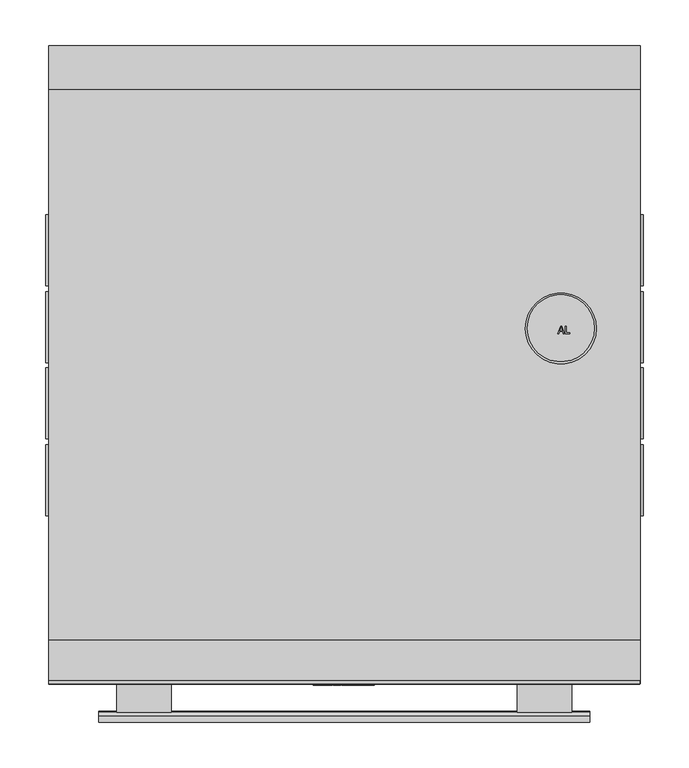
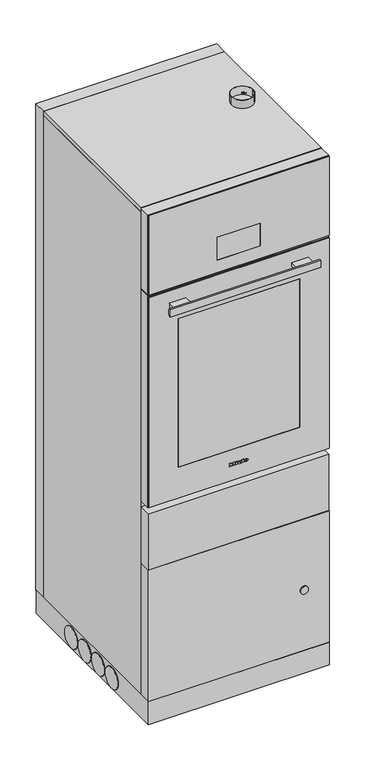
"""IFC4 building model written with IfcOpenShell, lengths in millimetres: proxy geometry, 12278800_SE1_PLW7111 : 62711138_SE1_12278800_PLW7111."""

from ifc_helpers import new_model, si_unit, point, frame, frame_2d, origin, place, context, project, spatial, polyline, circle_curve, ellipse_curve, trimmed, segment, composite_curve, outline, extrude, faceted_brep, source, transform, mapped, element, save
from ifc_brep_helpers import plane_surface, cylinder_surface, revolved_surface, extruded_surface, advanced_brep


def specialty_equipment_a3ce516c(model_context):
    return source(origin(), model_context, "Body", "SolidModel", [
        extrude(outline(polyline([(894.3169701, -34.243), (894.3169701, -32.912), (886.9579701, -32.912), (886.9579701, -34.243), (885.1099701, -34.243), (885.1099701, -29.403), (886.9579701, -29.403), (886.9579701, -30.723), (891.6180948, -30.723), (885.1099701, -25.806), (891.8001924, -20.867), (886.9579701, -20.867), (886.9579701, -22.22), (885.1099701, -22.22), (885.1099701, -13.442), (886.9579701, -13.442), (886.9579701, -14.839), (894.3169701, -14.839), (894.3169701, -13.442), (896.1099701, -13.442), (896.1099701, -20.141), (891.9849701, -23.353), (896.1099701, -26.576), (896.1099701, -34.243), (894.3169701, -34.243)])), frame((0.0, -1.0, 0.0), z_axis=(0.0, 1.0, 0.0), x_axis=(0.0, 0.0, 1.0)), (0.0, 0.0, 1.0), 1.0),
        extrude(outline(polyline([(894.3169701, 10.395), (894.3169701, 11.715), (886.9579701, 11.715), (886.9579701, 10.395), (885.1099701, 10.395), (885.1099701, 19.316), (886.9579701, 19.316), (886.9579701, 17.963), (896.1099701, 17.963), (896.1099701, 10.395), (894.3169701, 10.395)])), frame((0.0, -1.0, 0.0), z_axis=(0.0, 1.0, 0.0), x_axis=(0.0, 0.0, 1.0)), (0.0, 0.0, 1.0), 1.0),
        extrude(outline(polyline([(895.4609701, -9.603), (893.6789701, -8.767), (895.4169701, -5.038), (897.1989701, -5.863), (895.4609701, -9.603)])), frame((0.0, -1.0, 0.0), z_axis=(0.0, 1.0, 0.0), x_axis=(0.0, 0.0, 1.0)), (0.0, 0.0, 1.0), 1.0),
        extrude(outline(polyline([(893.4369701, -12.32), (891.4679701, -12.32), (891.4679701, -11.011), (886.9579701, -11.011), (886.9579701, -12.32), (885.1099701, -12.32), (885.1099701, -3.641), (886.9579701, -3.641), (886.9579701, -4.917), (893.4369701, -4.917), (893.4369701, -12.32)])), frame((0.0, -1.0, 0.0), z_axis=(0.0, 1.0, 0.0), x_axis=(0.0, 0.0, 1.0)), (0.0, 0.0, 1.0), 1.0),
        advanced_brep(
        [(2.42, -1.0, 887.7169701), (2.42, -1.0, 888.8279701), (9.779, -1.0, 888.8279701), (-3.025, -1.0, 888.8279701), (0.0, -1.0, 885.1099701), (9.592, -1.0, 887.7169701), (6.27, -1.0, 887.7169701), (3.652, -1.0, 886.4849701), (2.42, -1.0, 890.2359701), (2.42, -1.0, 891.4349701), (4.301, -1.0, 891.4349701), (4.301, -1.0, 890.2359701), (2.42, 0.0, 887.7169701), (3.652, 0.0, 886.4849701), (6.27, 0.0, 887.7169701), (9.592, 0.0, 887.7169701), (0.0, 0.0, 885.1099701), (-3.025, 0.0, 888.8279701), (9.779, 0.0, 888.8279701), (2.42, 0.0, 888.8279701), (2.42, 0.0, 890.2359701), (4.301, 0.0, 890.2359701), (4.301, 0.0, 891.4349701), (2.42, 0.0, 891.4349701)],
        [
            (0, 1),
            (1, 2),
            (2, 3, ellipse_curve(frame((3.377, -1.0, 888.8279701), z_axis=(0.0, -1.0, 0.0), x_axis=(-1.0, 0.0, 0.0)), 6.402, 5.291)),
            (3, 4, circle_curve(frame((1.23206, -1.0, 889.2019701), z_axis=(0.0, -1.0, 0.0), x_axis=(0.0, 0.0, -1.0)), 4.2734571)),
            (4, 5, circle_curve(frame((3.2488412, -1.0, 892.1059701), z_axis=(0.0, -1.0, 0.0), x_axis=(0.0, 0.0, -1.0)), 7.7135585)),
            (5, 6),
            (6, 7, circle_curve(frame((4.1897059, -1.0, 888.7399701), z_axis=(0.0, 1.0, 0.0), x_axis=(0.0, 0.0, -1.0)), 2.3182219)),
            (7, 0, circle_curve(frame((3.652, -1.0, 887.7169701), z_axis=(0.0, 1.0, 0.0), x_axis=(0.0, 0.0, -1.0)), 1.232)),
            (8, 9),
            (9, 10, circle_curve(frame((3.3605, -1.0, 891.4349701), z_axis=(0.0, 1.0, 0.0), x_axis=(0.0, 0.0, -1.0)), 0.9405)),
            (10, 11),
            (11, 8),
            (12, 13, circle_curve(frame((3.652, 0.0, 887.7169701), z_axis=(0.0, -1.0, 0.0), x_axis=(0.0, 0.0, -1.0)), 1.232)),
            (13, 14, circle_curve(frame((4.1897059, 0.0, 888.7399701), z_axis=(0.0, -1.0, 0.0), x_axis=(0.0, 0.0, -1.0)), 2.3182219)),
            (14, 15),
            (15, 16, circle_curve(frame((3.2488412, 0.0, 892.1059701), z_axis=(0.0, 1.0, 0.0), x_axis=(0.0, 0.0, -1.0)), 7.7135585)),
            (16, 17, circle_curve(frame((1.23206, 0.0, 889.2019701), z_axis=(0.0, 1.0, 0.0), x_axis=(0.0, 0.0, -1.0)), 4.2734571)),
            (17, 18, ellipse_curve(frame((3.377, 0.0, 888.8279701), z_axis=(0.0, 1.0, 0.0), x_axis=(-1.0, 0.0, 0.0)), 6.402, 5.291)),
            (18, 19),
            (19, 12),
            (20, 21),
            (21, 22),
            (22, 23, circle_curve(frame((3.3605, 0.0, 891.4349701), z_axis=(0.0, -1.0, 0.0), x_axis=(0.0, 0.0, -1.0)), 0.9405)),
            (23, 20),
            (0, 12),
            (19, 1),
            (18, 2),
            (5, 15),
            (14, 6),
            (17, 3),
            (13, 7),
            (16, 4),
            (8, 20),
            (23, 9),
            (22, 10),
            (21, 11),
        ],
        [
            plane_surface(frame((2.42, -1.0, 888.8279701), z_axis=(0.0, -1.0, 0.0), x_axis=(0.0, 0.0, 1.0))),
            plane_surface(frame((2.42, 0.0, 888.8279701), z_axis=(0.0, 1.0, 0.0), x_axis=(0.0, 0.0, -1.0))),
            plane_surface(frame((2.42, -1.0, 887.7169701), z_axis=(1.0, 0.0, 0.0), x_axis=(0.0, 1.0, 0.0))),
            plane_surface(frame((2.42, -1.0, 888.8279701), z_axis=(0.0, 0.0, -1.0), x_axis=(0.0, 1.0, 0.0))),
            plane_surface(frame((9.592, -1.0, 887.7169701), z_axis=(0.0, 0.0, 1.0), x_axis=(0.0, 1.0, 0.0))),
            extruded_surface(trimmed(ellipse_curve(frame((3.377, 1.0, 888.8279701), z_axis=(0.0, -1.0, 0.0), x_axis=(-1.0, 0.0, 0.0)), 6.402, 5.291), [point((9.779, 1.0, 888.8279701))], [point((-3.025, 1.0, 888.8279701))], True, "CARTESIAN"), (0.0, -1.0, 0.0), 1.0),
            revolved_surface(polyline([(4.1897059, 0.0, 886.4217482), (4.1897059, -1.0, 886.4217482)]), (4.1897059, 0.0, 888.7399701), (0.0, 1.0, 0.0)),
            revolved_surface(polyline([(3.652, 0.0, 886.4849701), (3.652, -1.0, 886.4849701)]), (3.652, 0.0, 887.7169701), (0.0, 1.0, 0.0)),
            cylinder_surface(frame((1.23206, 0.0, 889.2019701), z_axis=(0.0, -1.0, 0.0), x_axis=(0.0, 0.0, -1.0)), 4.2734571),
            cylinder_surface(frame((3.2488412, 0.0, 892.1059701), z_axis=(0.0, -1.0, 0.0), x_axis=(0.0, 0.0, -1.0)), 7.7135585),
            plane_surface(frame((2.42, -1.0, 890.2359701), z_axis=(1.0, 0.0, 0.0), x_axis=(0.0, 1.0, 0.0))),
            revolved_surface(polyline([(3.3605, 0.0, 890.4944701), (3.3605, -1.0, 890.4944701)]), (3.3605, 0.0, 891.4349701), (0.0, 1.0, 0.0)),
            plane_surface(frame((4.301, -1.0, 891.4349701), z_axis=(-1.0, 0.0, 0.0), x_axis=(0.0, 1.0, 0.0))),
            plane_surface(frame((4.301, -1.0, 890.2359701), z_axis=(0.0, 0.0, 1.0), x_axis=(0.0, 1.0, 0.0))),
        ],
        [
            (0, [[1, 2, 3, 4, 5, 6, 7, 8], [9, 10, 11, 12]]),
            (1, [[13, 14, 15, 16, 17, 18, 19, 20], [21, 22, 23, 24]]),
            (2, [[-1, 25, -20, 26]]),
            (3, [[-2, -26, -19, 27]]),
            (4, [[-6, 28, -15, 29]]),
            (5, [[-3, -27, -18, 30]]),
            (6, [[-7, -29, -14, 31]]),
            (7, [[-8, -31, -13, -25]]),
            (8, [[-4, -30, -17, 32]]),
            (9, [[-5, -32, -16, -28]]),
            (10, [[-9, 33, -24, 34]]),
            (11, [[-10, -34, -23, 35]]),
            (12, [[-11, -35, -22, 36]]),
            (13, [[-12, -36, -21, -33]]),
        ],
    ),
        advanced_brep(
        [(25.377, -1.0, 887.7169701), (25.377, -1.0, 888.8279701), (32.736, -1.0, 888.8279701), (19.932, -1.0, 888.8279701), (22.957, -1.0, 885.1099701), (32.549, -1.0, 887.7169701), (29.227, -1.0, 887.7169701), (26.609, -1.0, 886.4849701), (25.377, -1.0, 890.2359701), (25.377, -1.0, 891.4349701), (27.258, -1.0, 891.4349701), (27.258, -1.0, 890.2359701), (25.377, 0.0, 887.7169701), (26.609, 0.0, 886.4849701), (29.227, 0.0, 887.7169701), (32.549, 0.0, 887.7169701), (22.957, 0.0, 885.1099701), (19.932, 0.0, 888.8279701), (32.736, 0.0, 888.8279701), (25.377, 0.0, 888.8279701), (25.377, 0.0, 890.2359701), (27.258, 0.0, 890.2359701), (27.258, 0.0, 891.4349701), (25.377, 0.0, 891.4349701)],
        [
            (0, 1),
            (1, 2),
            (2, 3, ellipse_curve(frame((26.334, -1.0, 888.8279701), z_axis=(0.0, -1.0, 0.0), x_axis=(-1.0, 0.0, 0.0)), 6.402, 5.291)),
            (3, 4, circle_curve(frame((24.18906, -1.0, 889.2019701), z_axis=(0.0, -1.0, 0.0), x_axis=(0.0, 0.0, -1.0)), 4.2734571)),
            (4, 5, circle_curve(frame((26.2058412, -1.0, 892.1059701), z_axis=(0.0, -1.0, 0.0), x_axis=(0.0, 0.0, -1.0)), 7.7135585)),
            (5, 6),
            (6, 7, circle_curve(frame((27.1467059, -1.0, 888.7399701), z_axis=(0.0, 1.0, 0.0), x_axis=(0.0, 0.0, -1.0)), 2.3182219)),
            (7, 0, circle_curve(frame((26.609, -1.0, 887.7169701), z_axis=(0.0, 1.0, 0.0), x_axis=(0.0, 0.0, -1.0)), 1.232)),
            (8, 9),
            (9, 10, circle_curve(frame((26.3175, -1.0, 891.4349701), z_axis=(0.0, 1.0, 0.0), x_axis=(0.0, 0.0, -1.0)), 0.9405)),
            (10, 11),
            (11, 8),
            (12, 13, circle_curve(frame((26.609, 0.0, 887.7169701), z_axis=(0.0, -1.0, 0.0), x_axis=(0.0, 0.0, -1.0)), 1.232)),
            (13, 14, circle_curve(frame((27.1467059, 0.0, 888.7399701), z_axis=(0.0, -1.0, 0.0), x_axis=(0.0, 0.0, -1.0)), 2.3182219)),
            (14, 15),
            (15, 16, circle_curve(frame((26.2058412, 0.0, 892.1059701), z_axis=(0.0, 1.0, 0.0), x_axis=(0.0, 0.0, -1.0)), 7.7135585)),
            (16, 17, circle_curve(frame((24.18906, 0.0, 889.2019701), z_axis=(0.0, 1.0, 0.0), x_axis=(0.0, 0.0, -1.0)), 4.2734571)),
            (17, 18, ellipse_curve(frame((26.334, 0.0, 888.8279701), z_axis=(0.0, 1.0, 0.0), x_axis=(-1.0, 0.0, 0.0)), 6.402, 5.291)),
            (18, 19),
            (19, 12),
            (20, 21),
            (21, 22),
            (22, 23, circle_curve(frame((26.3175, 0.0, 891.4349701), z_axis=(0.0, -1.0, 0.0), x_axis=(0.0, 0.0, -1.0)), 0.9405)),
            (23, 20),
            (0, 12),
            (19, 1),
            (18, 2),
            (5, 15),
            (14, 6),
            (17, 3),
            (13, 7),
            (16, 4),
            (8, 20),
            (23, 9),
            (22, 10),
            (21, 11),
        ],
        [
            plane_surface(frame((25.377, -1.0, 888.8279701), z_axis=(0.0, -1.0, 0.0), x_axis=(0.0, 0.0, 1.0))),
            plane_surface(frame((25.377, 0.0, 888.8279701), z_axis=(0.0, 1.0, 0.0), x_axis=(0.0, 0.0, -1.0))),
            plane_surface(frame((25.377, -1.0, 887.7169701), z_axis=(1.0, 0.0, 0.0), x_axis=(0.0, 1.0, 0.0))),
            plane_surface(frame((25.377, -1.0, 888.8279701), z_axis=(0.0, 0.0, -1.0), x_axis=(0.0, 1.0, 0.0))),
            plane_surface(frame((32.549, -1.0, 887.7169701), z_axis=(0.0, 0.0, 1.0), x_axis=(0.0, 1.0, 0.0))),
            extruded_surface(trimmed(ellipse_curve(frame((26.334, 1.0, 888.8279701), z_axis=(0.0, -1.0, 0.0), x_axis=(-1.0, 0.0, 0.0)), 6.402, 5.291), [point((32.736, 1.0, 888.8279701))], [point((19.932, 1.0, 888.8279701))], True, "CARTESIAN"), (0.0, -1.0, 0.0), 1.0),
            revolved_surface(polyline([(27.1467059, 0.0, 886.4217482), (27.1467059, -1.0, 886.4217482)]), (27.1467059, 0.0, 888.7399701), (0.0, 1.0, 0.0)),
            revolved_surface(polyline([(26.609, 0.0, 886.4849701), (26.609, -1.0, 886.4849701)]), (26.609, 0.0, 887.7169701), (0.0, 1.0, 0.0)),
            cylinder_surface(frame((24.18906, 0.0, 889.2019701), z_axis=(0.0, -1.0, 0.0), x_axis=(0.0, 0.0, -1.0)), 4.2734571),
            cylinder_surface(frame((26.2058412, 0.0, 892.1059701), z_axis=(0.0, -1.0, 0.0), x_axis=(0.0, 0.0, -1.0)), 7.7135585),
            plane_surface(frame((25.377, -1.0, 890.2359701), z_axis=(1.0, 0.0, 0.0), x_axis=(0.0, 1.0, 0.0))),
            revolved_surface(polyline([(26.3175, 0.0, 890.4944701), (26.3175, -1.0, 890.4944701)]), (26.3175, 0.0, 891.4349701), (0.0, 1.0, 0.0)),
            plane_surface(frame((27.258, -1.0, 891.4349701), z_axis=(-1.0, 0.0, 0.0), x_axis=(0.0, 1.0, 0.0))),
            plane_surface(frame((27.258, -1.0, 890.2359701), z_axis=(0.0, 0.0, 1.0), x_axis=(0.0, 1.0, 0.0))),
        ],
        [
            (0, [[1, 2, 3, 4, 5, 6, 7, 8], [9, 10, 11, 12]]),
            (1, [[13, 14, 15, 16, 17, 18, 19, 20], [21, 22, 23, 24]]),
            (2, [[-1, 25, -20, 26]]),
            (3, [[-2, -26, -19, 27]]),
            (4, [[-6, 28, -15, 29]]),
            (5, [[-3, -27, -18, 30]]),
            (6, [[-7, -29, -14, 31]]),
            (7, [[-8, -31, -13, -25]]),
            (8, [[-4, -30, -17, 32]]),
            (9, [[-5, -32, -16, -28]]),
            (10, [[-9, 33, -24, 34]]),
            (11, [[-10, -34, -23, 35]]),
            (12, [[-11, -35, -22, 36]]),
            (13, [[-12, -36, -21, -33]]),
        ],
    ),
        extrude(outline(polyline([(325.0, 653.0273071), (325.0, 48.5762939), (-325.0, 48.5762939), (-325.0, 653.0273071), (325.0, 653.0273071)])), frame((0.0, 0.0, 1927.0), z_axis=(0.0, 0.0, 1.0), x_axis=(1.0, 0.0, 0.0)), (0.0, 0.0, 1.0), 14.0999756),
        extrude(outline(polyline([(325.0, 700.1), (325.0, 0.5808105), (-325.0, 0.5808105), (-325.0, 700.1), (325.0, 700.1)])), frame((0.0, 0.0, 4.7999878), z_axis=(0.0, 0.0, 1.0), x_axis=(1.0, 0.0, 0.0)), (0.0, 0.0, 1.0), 86.7000122),
        extrude(outline(polyline([(91.5, 325.0), (1927.0, 325.0), (1927.0, -325.0), (91.5, -325.0), (91.5, 325.0)]), holes=[polyline([(1511.0999756, -220.0), (1511.0999756, 220.0), (891.0999756, 220.0), (891.0999756, -220.0), (1511.0999756, -220.0)])]), frame((0.0, 48.5762939, 0.0), z_axis=(0.0, 1.0, 0.0), x_axis=(0.0, 0.0, 1.0)), (0.0, 0.0, 1.0), 604.4510132),
        advanced_brep(
        [(268.2500305, 80.857445, 4.7999878), (268.2500305, 110.2848797, 4.7999878), (235.7500305, 80.857445, 4.7999878), (235.7500305, 110.3447208, 4.7999878)],
        [
            (0, 1, circle_curve(frame((268.2500305, 95.5711623, 24.9514551), z_axis=(1.0, 0.0, 0.0), x_axis=(0.0, 1.0, 0.0)), 24.9514551)),
            (1, 0),
            (2, 3),
            (3, 2, circle_curve(frame((235.7500305, 95.5711623, 24.9514551), z_axis=(-1.0, 0.0, 0.0), x_axis=(0.0, 1.0, 0.0)), 24.9514551)),
            (0, 2),
            (3, 1),
        ],
        [
            plane_surface(frame((268.2500305, 120.5226174, 24.9514551), z_axis=(1.0, 0.0, 0.0), x_axis=(0.0, 0.0, 1.0))),
            plane_surface(frame((235.7500305, 120.5226174, 24.9514551), z_axis=(-1.0, 0.0, 0.0), x_axis=(0.0, 0.0, -1.0))),
            cylinder_surface(frame((235.7500305, 95.5711623, 24.9514551), z_axis=(1.0, 0.0, 0.0), x_axis=(0.0, 1.0, 0.0)), 24.9514551),
            plane_surface(frame((268.2500305, 110.3447208, 4.7999878), z_axis=(0.0, 0.0, 1.0), x_axis=(-1.0, 0.0, 0.0))),
        ],
        [
            (0, [[1, 2]]),
            (1, [[3, 4]]),
            (2, [[-1, 5, -4, 6]]),
            (3, [[-2, -6, -3, -5]]),
        ],
    ),
        advanced_brep(
        [(-268.25, 80.857445, 4.7999878), (-268.25, 110.3447208, 4.7999878), (-235.75, 80.857445, 4.7999878), (-235.75, 110.2848797, 4.7999878)],
        [
            (0, 1),
            (1, 0, circle_curve(frame((-268.25, 95.5711623, 24.9514551), z_axis=(-1.0, 0.0, 0.0), x_axis=(0.0, 1.0, 0.0)), 24.9514551)),
            (2, 3, circle_curve(frame((-235.75, 95.5711623, 24.9514551), z_axis=(1.0, 0.0, 0.0), x_axis=(0.0, 1.0, 0.0)), 24.9514551)),
            (3, 2),
            (1, 3),
            (2, 0),
        ],
        [
            plane_surface(frame((-268.25, 110.3447208, 4.7999878), z_axis=(-1.0, 0.0, 0.0), x_axis=(0.0, 1.0, 0.0))),
            plane_surface(frame((-235.75, 110.3447208, 4.7999878), z_axis=(1.0, 0.0, 0.0), x_axis=(0.0, -1.0, 0.0))),
            cylinder_surface(frame((-235.75, 95.5711623, 24.9514551), z_axis=(-1.0, 0.0, 0.0), x_axis=(0.0, 1.0, 0.0)), 24.9514551),
            plane_surface(frame((-268.25, 80.857445, 4.7999878), z_axis=(0.0, 0.0, 1.0), x_axis=(1.0, 0.0, 0.0))),
        ],
        [
            (0, [[1, 2]]),
            (1, [[3, 4]]),
            (2, [[-2, 5, -3, 6]]),
            (3, [[-1, -6, -4, -5]]),
        ],
    ),
        extrude(outline(composite_curve([segment(polyline([(645.4517693, 4.7999878), (670.1938484, 4.7999878)]), True, "CONTINUOUS"), segment(trimmed(circle_curve(frame_2d((657.8228088, 18.3003576)), 18.3112699), [point((670.1938484, 4.7999878))], [point((645.4517693, 4.7999878))], False, "CARTESIAN"), True, "CONTINUOUS")], self_intersect=False)), frame((270.7316559, 0.0, 0.0), z_axis=(1.0, 0.0, 0.0), x_axis=(0.0, 1.0, 0.0)), (0.0, 0.0, 1.0), 32.0713133),
        extrude(outline(composite_curve([segment(polyline([(645.4517693, 4.7999878), (670.1938484, 4.7999878)]), True, "CONTINUOUS"), segment(trimmed(circle_curve(frame_2d((657.8228088, 18.3003576)), 18.3112699), [point((670.1938484, 4.7999878))], [point((645.4517693, 4.7999878))], False, "CARTESIAN"), True, "CONTINUOUS")], self_intersect=False)), frame((-302.8029692, 0.0, 0.0), z_axis=(1.0, 0.0, 0.0), x_axis=(0.0, 1.0, 0.0)), (0.0, 0.0, 1.0), 32.0713133),
        extrude(outline(composite_curve([segment(trimmed(circle_curve(frame_2d((477.0717468, 48.1499939)), 38.9999695), [point((438.0717773, 48.1499939))], [point((516.0717163, 48.1499939))], False, "CARTESIAN"), True, "CONTINUOUS"), segment(trimmed(circle_curve(frame_2d((477.0717468, 48.1499939)), 38.9999695), [point((516.0717163, 48.1499939))], [point((438.0717773, 48.1499939))], False, "CARTESIAN"), True, "CONTINUOUS")], self_intersect=False)), frame((-328.2999878, 0.0, 0.0), z_axis=(1.0, 0.0, 0.0), x_axis=(0.0, 1.0, 0.0)), (0.0, 0.0, 1.0), 3.2999878),
        extrude(outline(composite_curve([segment(trimmed(circle_curve(frame_2d((392.0717468, 48.1499939)), 38.9999695), [point((353.0717773, 48.1499939))], [point((431.0717163, 48.1499939))], False, "CARTESIAN"), True, "CONTINUOUS"), segment(trimmed(circle_curve(frame_2d((392.0717468, 48.1499939)), 38.9999695), [point((431.0717163, 48.1499939))], [point((353.0717773, 48.1499939))], False, "CARTESIAN"), True, "CONTINUOUS")], self_intersect=False)), frame((-328.2999878, 0.0, 0.0), z_axis=(1.0, 0.0, 0.0), x_axis=(0.0, 1.0, 0.0)), (0.0, 0.0, 1.0), 3.2999878),
        extrude(outline(composite_curve([segment(trimmed(circle_curve(frame_2d((309.0717468, 48.1499939)), 38.9999695), [point((270.0717773, 48.1499939))], [point((348.0717163, 48.1499939))], False, "CARTESIAN"), True, "CONTINUOUS"), segment(trimmed(circle_curve(frame_2d((309.0717468, 48.1499939)), 38.9999695), [point((348.0717163, 48.1499939))], [point((270.0717773, 48.1499939))], False, "CARTESIAN"), True, "CONTINUOUS")], self_intersect=False)), frame((-328.2999878, 0.0, 0.0), z_axis=(1.0, 0.0, 0.0), x_axis=(0.0, 1.0, 0.0)), (0.0, 0.0, 1.0), 3.2999878),
        extrude(outline(composite_curve([segment(trimmed(circle_curve(frame_2d((224.0717468, 48.1499939)), 38.9999695), [point((185.0717773, 48.1499939))], [point((263.0717163, 48.1499939))], False, "CARTESIAN"), True, "CONTINUOUS"), segment(trimmed(circle_curve(frame_2d((224.0717468, 48.1499939)), 38.9999695), [point((263.0717163, 48.1499939))], [point((185.0717773, 48.1499939))], False, "CARTESIAN"), True, "CONTINUOUS")], self_intersect=False)), frame((-328.2999878, 0.0, 0.0), z_axis=(1.0, 0.0, 0.0), x_axis=(0.0, 1.0, 0.0)), (0.0, 0.0, 1.0), 3.2999878),
        extrude(outline(composite_curve([segment(trimmed(circle_curve(frame_2d((477.0717468, 48.1499939)), 38.9999695), [point((438.0717773, 48.1499939))], [point((516.0717163, 48.1499939))], False, "CARTESIAN"), True, "CONTINUOUS"), segment(trimmed(circle_curve(frame_2d((477.0717468, 48.1499939)), 38.9999695), [point((516.0717163, 48.1499939))], [point((438.0717773, 48.1499939))], False, "CARTESIAN"), True, "CONTINUOUS")], self_intersect=False)), frame((325.0, 0.0, 0.0), z_axis=(1.0, 0.0, 0.0), x_axis=(0.0, 1.0, 0.0)), (0.0, 0.0, 1.0), 3.2999878),
        extrude(outline(composite_curve([segment(trimmed(circle_curve(frame_2d((392.0717468, 48.1499939)), 38.9999695), [point((353.0717773, 48.1499939))], [point((431.0717163, 48.1499939))], False, "CARTESIAN"), True, "CONTINUOUS"), segment(trimmed(circle_curve(frame_2d((392.0717468, 48.1499939)), 38.9999695), [point((431.0717163, 48.1499939))], [point((353.0717773, 48.1499939))], False, "CARTESIAN"), True, "CONTINUOUS")], self_intersect=False)), frame((325.0, 0.0, 0.0), z_axis=(1.0, 0.0, 0.0), x_axis=(0.0, 1.0, 0.0)), (0.0, 0.0, 1.0), 3.2999878),
        extrude(outline(composite_curve([segment(trimmed(circle_curve(frame_2d((309.0717468, 48.1499939)), 38.9999695), [point((270.0717773, 48.1499939))], [point((348.0717163, 48.1499939))], False, "CARTESIAN"), True, "CONTINUOUS"), segment(trimmed(circle_curve(frame_2d((309.0717468, 48.1499939)), 38.9999695), [point((348.0717163, 48.1499939))], [point((270.0717773, 48.1499939))], False, "CARTESIAN"), True, "CONTINUOUS")], self_intersect=False)), frame((325.0, 0.0, 0.0), z_axis=(1.0, 0.0, 0.0), x_axis=(0.0, 1.0, 0.0)), (0.0, 0.0, 1.0), 3.2999878),
        extrude(outline(composite_curve([segment(trimmed(circle_curve(frame_2d((224.0717468, 48.1499939)), 38.9999695), [point((185.0717773, 48.1499939))], [point((263.0717163, 48.1499939))], False, "CARTESIAN"), True, "CONTINUOUS"), segment(trimmed(circle_curve(frame_2d((224.0717468, 48.1499939)), 38.9999695), [point((263.0717163, 48.1499939))], [point((185.0717773, 48.1499939))], False, "CARTESIAN"), True, "CONTINUOUS")], self_intersect=False)), frame((325.0, 0.0, 0.0), z_axis=(1.0, 0.0, 0.0), x_axis=(0.0, 1.0, 0.0)), (0.0, 0.0, 1.0), 3.2999878),
        extrude(outline(composite_curve([segment(trimmed(circle_curve(frame_2d((238.0000305, 390.5762634)), 38.9470958), [point((276.9471263, 390.5762634))], [point((199.0529347, 390.5762634))], False, "CARTESIAN"), True, "CONTINUOUS"), segment(trimmed(circle_curve(frame_2d((238.0000305, 390.5762634)), 38.9470958), [point((199.0529347, 390.5762634))], [point((276.9471263, 390.5762634))], False, "CARTESIAN"), True, "CONTINUOUS")], self_intersect=False), holes=[composite_curve([segment(trimmed(circle_curve(frame_2d((238.0000305, 391.0273071)), 36.8587781), [point((274.8588086, 391.0273071))], [point((201.1412525, 391.0273071))], True, "CARTESIAN"), True, "CONTINUOUS"), segment(trimmed(circle_curve(frame_2d((238.0000305, 391.0273071)), 36.8587781), [point((201.1412525, 391.0273071))], [point((274.8588086, 391.0273071))], True, "CARTESIAN"), True, "CONTINUOUS")], self_intersect=False)]), frame((0.0, 0.0, 1941.0999756), z_axis=(0.0, 0.0, 1.0), x_axis=(1.0, 0.0, 0.0)), (0.0, 0.0, 1.0), 31.7859497),
        extrude(outline(polyline([(234.6666645, 384.8330263), (237.8745955, 392.8695311), (238.7300437, 392.8695311), (241.9379747, 384.8330263), (240.8765126, 384.8330263), (239.9563171, 387.344434), (236.6463601, 387.344434), (235.7281267, 384.8330263), (234.6666645, 384.8330263)]), holes=[polyline([(237.0152231, 388.3489971), (239.5894161, 388.3489971), (238.8654243, 390.3247687), (238.3023196, 391.864968), (237.8020001, 390.497428), (237.0152231, 388.3489971)])]), frame((0.0, 0.0, 1972.8859253), z_axis=(0.0, 0.0, 1.0), x_axis=(1.0, 0.0, 0.0)), (0.0, 0.0, 1.0), 1.0),
        extrude(outline(polyline([(243.0112091, 384.8330263), (243.0112091, 392.8695311), (244.0157722, 392.8695311), (244.0157722, 385.8375894), (248.0340246, 385.8375894), (248.0340246, 384.8330263), (243.0112091, 384.8330263)])), frame((0.0, 0.0, 1972.8859253), z_axis=(0.0, 0.0, 1.0), x_axis=(1.0, 0.0, 0.0)), (0.0, 0.0, 1.0), 1.0),
        extrude(outline(polyline([(1631.1099854, 325.0), (1631.1099854, -325.0), (827.1099701, -325.0), (827.1099701, 325.0), (1631.1099854, 325.0)]), holes=[polyline([(1511.1099854, 218.3000183), (946.6099663, 218.3000183), (946.6099663, -218.3000183), (1511.1099854, -218.3000183), (1511.1099854, 218.3000183)])]), frame((0.0, 4.0, 0.0), z_axis=(0.0, 1.0, 0.0), x_axis=(0.0, 0.0, 1.0)), (0.0, 0.0, 1.0), 44.5762939),
        extrude(outline(polyline([(1629.1099854, 324.5), (1629.1099854, -324.5000305), (829.1099701, -324.5000305), (829.1099701, 324.5), (1629.1099854, 324.5)]), holes=[polyline([(1511.1099854, 218.3000183), (946.6099663, 218.3000183), (946.6099663, -218.3000183), (1511.1099854, -218.3000183), (1511.1099854, 218.3000183)])]), frame((0.0, 0.0, 0.0), z_axis=(0.0, 1.0, 0.0), x_axis=(0.0, 0.0, 1.0)), (0.0, 0.0, 1.0), 4.0),
        extrude(outline(polyline([(325.0, 2.5762939), (-325.0, 2.5762939), (-325.0, 48.5762939), (325.0, 48.5762939), (325.0, 2.5762939)])), frame((0.0, 0.0, 591.4999695), z_axis=(0.0, 0.0, 1.0), x_axis=(1.0, 0.0, 0.0)), (0.0, 0.0, 1.0), 212.2844051),
        extrude(outline(polyline([(325.0, 4.0), (-325.0, 4.0), (-325.0, 48.5762939), (325.0, 48.5762939), (325.0, 4.0)])), frame((0.0, 0.0, 1637.3963013), z_axis=(0.0, 0.0, 1.0), x_axis=(1.0, 0.0, 0.0)), (0.0, 0.0, 1.0), 302.6000366),
        extrude(outline(polyline([(1638.3963013, -324.462677), (1638.3963013, 324.5373077), (1939.3963013, 324.5373077), (1939.3963013, -324.462677), (1638.3963013, -324.462677)]), holes=[polyline([(1770.9963379, 77.1372986), (1685.0963135, 77.1372986), (1685.0963135, -77.0627136), (1770.9963379, -77.0627136), (1770.9963379, 77.1372986)])]), frame((0.0, 0.0, 0.0), z_axis=(0.0, 1.0, 0.0), x_axis=(0.0, 0.0, 1.0)), (0.0, 0.0, 1.0), 4.0),
        extrude(outline(polyline([(325.0, 0.5808105), (-325.0, 0.5808105), (-325.0, 48.5762939), (325.0, 48.5762939), (325.0, 0.5808105)])), frame((0.0, 0.0, 91.5), z_axis=(0.0, 0.0, 1.0), x_axis=(1.0, 0.0, 0.0)), (0.0, 0.0, 1.0), 499.9999695),
        extrude(outline(polyline([(218.3000183, 0.0), (-218.3000183, 0.0), (-218.3000183, 48.5762939), (218.3000183, 48.5762939), (218.3000183, 0.0)])), frame((0.0, 0.0, 946.6099663), z_axis=(0.0, 0.0, 1.0), x_axis=(1.0, 0.0, 0.0)), (0.0, 0.0, 1.0), 564.5000191),
        extrude(outline(polyline([(77.1372986, 0.0), (-77.0627136, 0.0), (-77.0627136, 4.0), (77.1372986, 4.0), (77.1372986, 0.0)])), frame((0.0, 0.0, 1685.0963135), z_axis=(0.0, 0.0, 1.0), x_axis=(1.0, 0.0, 0.0)), (0.0, 0.0, 1.0), 85.9000244),
        extrude(outline(composite_curve([segment(trimmed(circle_curve(frame_2d((323.4463501, 233.9976807)), 14.0), [point((323.4463501, 219.9976807))], [point((323.4463501, 247.9976807))], False, "CARTESIAN"), True, "CONTINUOUS"), segment(trimmed(circle_curve(frame_2d((323.4463501, 233.9976807)), 14.0), [point((323.4463501, 247.9976807))], [point((323.4463501, 219.9976807))], False, "CARTESIAN"), True, "CONTINUOUS")], self_intersect=False)), frame((0.0, -4.4282379, 0.0), z_axis=(0.0, 1.0, 0.0), x_axis=(0.0, 0.0, 1.0)), (0.0, 0.0, 1.0), 5.0090485),
        faceted_brep([(-190.0000305, 0.0, 1582.1099854), (-250.0000305, 0.0, 1582.1099854), (-250.0000305, -31.217926, 1582.1099854), (-190.0000305, -31.217926, 1582.1099854), (190.0000305, 0.0, 1582.1099854), (190.0000305, -31.217926, 1582.1099854), (250.0000305, -31.217926, 1582.1099854), (250.0000305, 0.0, 1582.1099854), (-190.0000305, 0.0, 1568.1099854), (-190.0000305, -31.217926, 1568.1099854), (-250.0000305, -31.217926, 1568.1099854), (-250.0000305, 0.0, 1568.1099854), (190.0000305, 0.0, 1568.1099854), (250.0000305, 0.0, 1568.1099854), (250.0000305, -31.217926, 1568.1099854), (190.0000305, -31.217926, 1568.1099854), (-250.0000305, -30.0, 1575.1099854), (-190.0000305, -30.0, 1575.1099854), (190.0000305, -30.0, 1575.1099854), (250.0000305, -30.0, 1575.1099854), (270.0, -42.0, 1588.6099854), (270.0, -42.0, 1561.6099854), (270.0, -34.9479615, 1561.6099854), (270.0, -31.217926, 1568.1099854), (270.0, -30.0, 1575.1099854), (270.0, -31.217926, 1582.1099854), (270.0, -34.9479964, 1588.6099854), (-270.0, -42.0, 1588.6099854), (-270.0, -34.9479964, 1588.6099854), (-270.0, -31.217926, 1582.1099854), (-270.0, -30.0, 1575.1099854), (-270.0, -31.217926, 1568.1099854), (-270.0, -34.9479615, 1561.6099854), (-270.0, -42.0, 1561.6099854)], [[[0, 1, 2, 3]], [[4, 5, 6, 7]], [[8, 9, 10, 11]], [[12, 13, 14, 15]], [[1, 0, 8, 11]], [[2, 1, 11, 10, 16]], [[0, 3, 17, 9, 8]], [[5, 4, 12, 15, 18]], [[7, 6, 19, 14, 13]], [[4, 7, 13, 12]], [[20, 21, 22, 23, 24, 25, 26]], [[27, 28, 29, 30, 31, 32, 33]], [[21, 20, 27, 33]], [[22, 21, 33, 32]], [[23, 22, 32, 31, 10, 9, 15, 14]], [[24, 23, 14, 19]], [[31, 30, 16, 10]], [[15, 9, 17, 18]], [[25, 24, 19, 6]], [[30, 29, 2, 16]], [[3, 5, 18, 17]], [[26, 25, 6, 5, 3, 2, 29, 28]], [[20, 26, 28, 27]]]),
        extrude(outline(polyline([(325.0, 701.6), (325.0, 653.0273071), (-325.0, 653.0273071), (-325.0, 701.6), (325.0, 701.6)])), frame((0.0, 0.0, 91.5), z_axis=(0.0, 0.0, 1.0), x_axis=(1.0, 0.0, 0.0)), (0.0, 0.0, 1.0), 1849.5999756),
    ])


if __name__ == "__main__":
    model = new_model("IFC4")
    model_context = context("Model", 3, world=origin())
    ifc_project = project(units=[si_unit("LENGTHUNIT", "METRE", prefix="MILLI")], contexts=[model_context])
    site = spatial("IfcSite", under=ifc_project)
    building = spatial("IfcBuilding", under=site)
    placement = place(None, origin())
    specialty_equipment_shape = specialty_equipment_a3ce516c(model_context)
    element("IfcBuildingElementProxy", 1, Name="12278800_SE1_PLW7111 : 62711138_SE1_12278800_PLW7111", ObjectType="12278800_SE1_PLW7111 : 62711138_SE1_12278800_PLW7111", at=placement, inside=building, context=model_context, shape_type="MappedRepresentation", body=[
        mapped(specialty_equipment_shape, transform((0.0, 0.0, 0.0), x_axis=(1.0, 0.0, 0.0), y_axis=(0.0, 1.0, 0.0), z_axis=(0.0, 0.0, 1.0))),
    ])
    save(model, "model.ifc")
